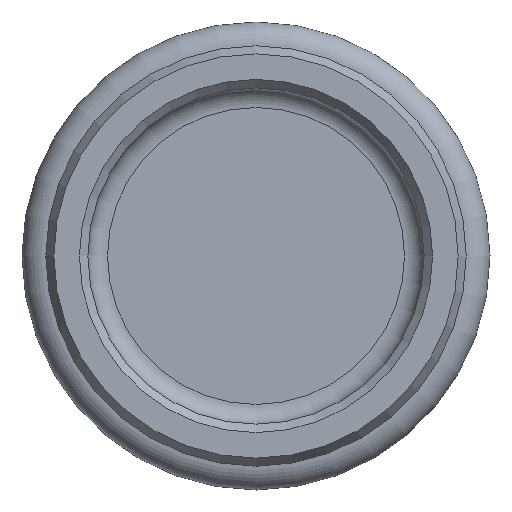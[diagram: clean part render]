
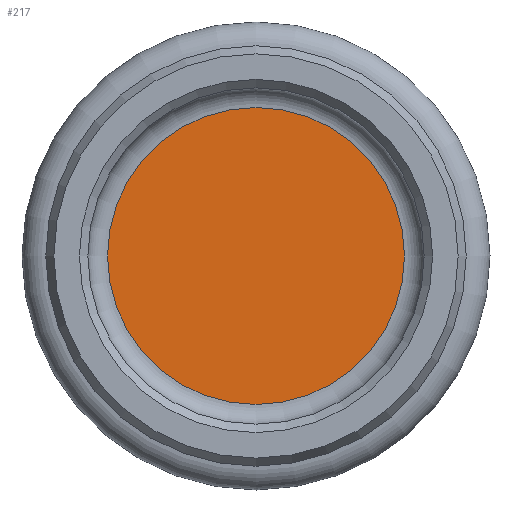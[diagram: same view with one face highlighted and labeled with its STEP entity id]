
A CAD part, front view. The second image highlights one B-rep face of the part: STEP entity #217.
In plain terms, the highlighted planar face has unit normal (0, -1, 0).
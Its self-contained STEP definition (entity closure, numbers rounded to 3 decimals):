
#52=FACE_OUTER_BOUND('',#71,.T.);
#71=EDGE_LOOP('',(#171));
#111=CIRCLE('',#242,5.3);
#131=VERTEX_POINT('',#368);
#151=EDGE_CURVE('',#131,#131,#111,.T.);
#171=ORIENTED_EDGE('',*,*,#151,.F.);
#211=PLANE('',#241);
#217=ADVANCED_FACE('',(#52),#211,.T.);
#241=AXIS2_PLACEMENT_3D('',#367,#284,#285);
#242=AXIS2_PLACEMENT_3D('',#369,#286,#287);
#284=DIRECTION('center_axis',(0.,-1.,0.));
#285=DIRECTION('ref_axis',(0.,0.,-1.));
#286=DIRECTION('center_axis',(0.,1.,0.));
#287=DIRECTION('ref_axis',(-1.,0.,0.));
#367=CARTESIAN_POINT('Origin',(-2.65,-0.7,0.));
#368=CARTESIAN_POINT('',(-5.3,-0.7,0.));
#369=CARTESIAN_POINT('Origin',(0.,-0.7,0.));
